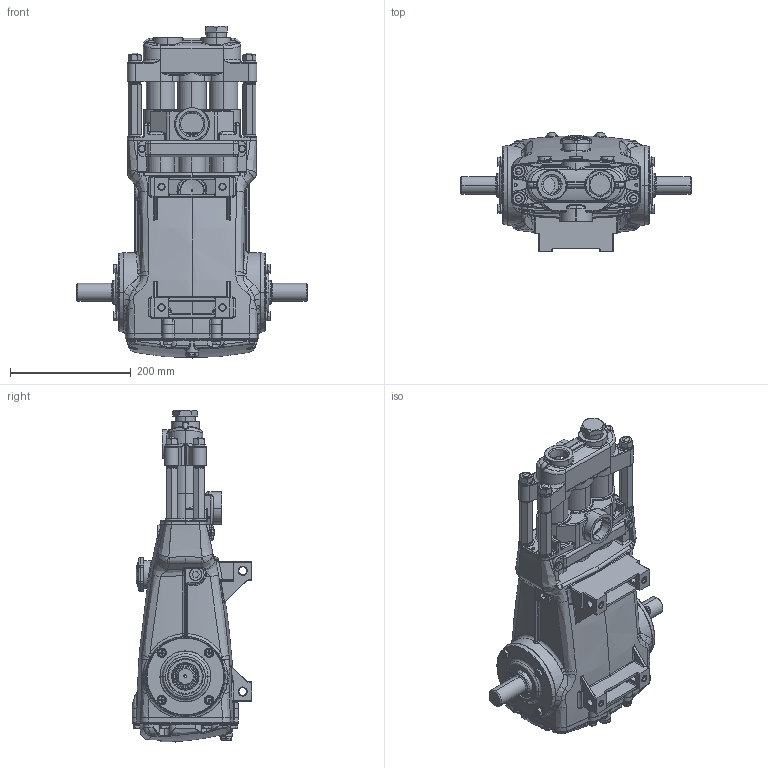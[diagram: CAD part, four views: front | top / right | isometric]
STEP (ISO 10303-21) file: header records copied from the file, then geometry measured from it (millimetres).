
FILE_DESCRIPTION (( 'STEP AP214' ), '1' );
FILE_NAME ('002520.STEP', '2017-09-22T12:30:27', ( '' ), ( '' ), 'SwSTEP 2.0', 'SolidWorks 2017', '' );
FILE_SCHEMA (( 'AUTOMOTIVE_DESIGN' ));
Length unit declared in the file: millimetre
Products named in the file (1): 002520
Bounding box: 382 x 198 x 550.07 mm (x, y, z)
Surface area: 600591.1 mm2 (no closed solid volume)
Topology: 0 solids, 2186 shells, 2300 faces, 11284 edges, 11102 vertices
Faces by surface type: cylinder 744, bspline 648, plane 612, cone 249, sphere 47
Entity records: 237024 total; most frequent: CARTESIAN_POINT 161672, DIRECTION 12037, ORIENTED_EDGE 11323, EDGE_CURVE 11209, VERTEX_POINT 11095, B_SPLINE_CURVE_WITH_KNOTS 4498, AXIS2_PLACEMENT_3D 4236, VECTOR 3565
